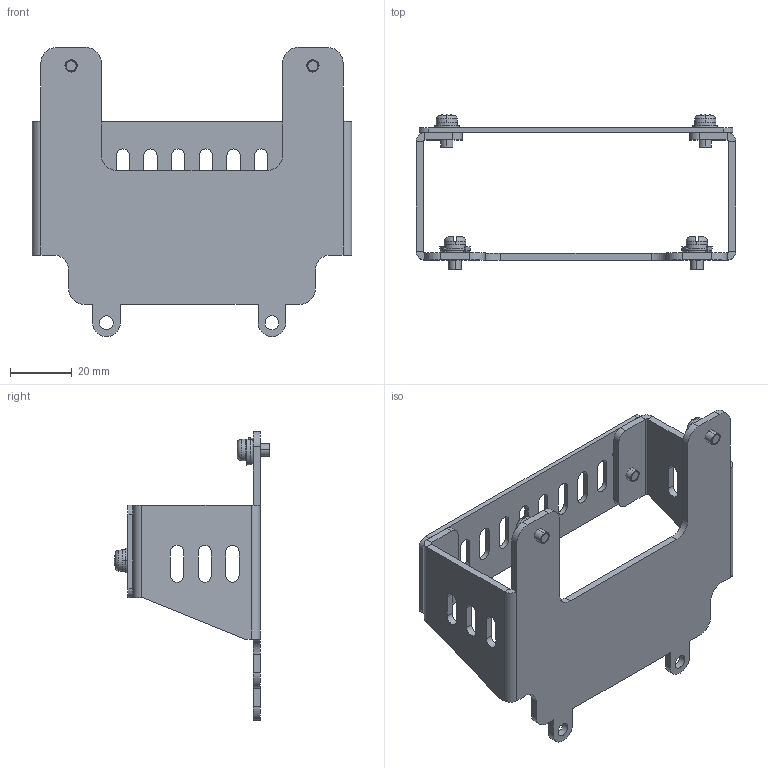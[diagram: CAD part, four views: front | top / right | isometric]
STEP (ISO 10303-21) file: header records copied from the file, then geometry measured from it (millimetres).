
FILE_DESCRIPTION((''),'2;1');
FILE_NAME('ZHZ-GA50V2_ASM','2020-10-19T',('anm'),('YASKAWA ELECTRIC CORCORATION'),'PRO/ENGINEER BY PARAMETRIC TECHNOLOGY CORPORATION, 2015440','PRO/ENGINEER BY PARAMETRIC TECHNOLOGY CORPORATION, 2015440','');
FILE_SCHEMA(('CONFIG_CONTROL_DESIGN'));
Length unit declared in the file: millimetre
Products named in the file (6): 400-125-059; 400-127-196; MS15_M4X8; SCAT41077-2; SCAT41279-1; ZHZ-GA50V2_ASM
Assembly tree (8 placements, depth 2):
  ZHZ-GA50V2_ASM
    400-125-059
    400-127-196
    MS15_M4X8  x2
    SCAT41077-2  x2
    SCAT41279-1  x2
Bounding box: 104 x 50.5 x 94 mm (x, y, z)
Volume: 25803.8 mm3; surface area: 28416.7 mm2
Topology: 8 solids, 20 shells, 396 faces, 1006 edges, 662 vertices
Faces by surface type: plane 210, cylinder 156, torus 20, cone 6, sphere 4
Entity records: 9811 total; most frequent: CARTESIAN_POINT 1792, DIRECTION 1712, ORIENTED_EDGE 1556, EDGE_CURVE 794, AXIS2_PLACEMENT_3D 614, VERTEX_POINT 523, VECTOR 484, LINE 484
